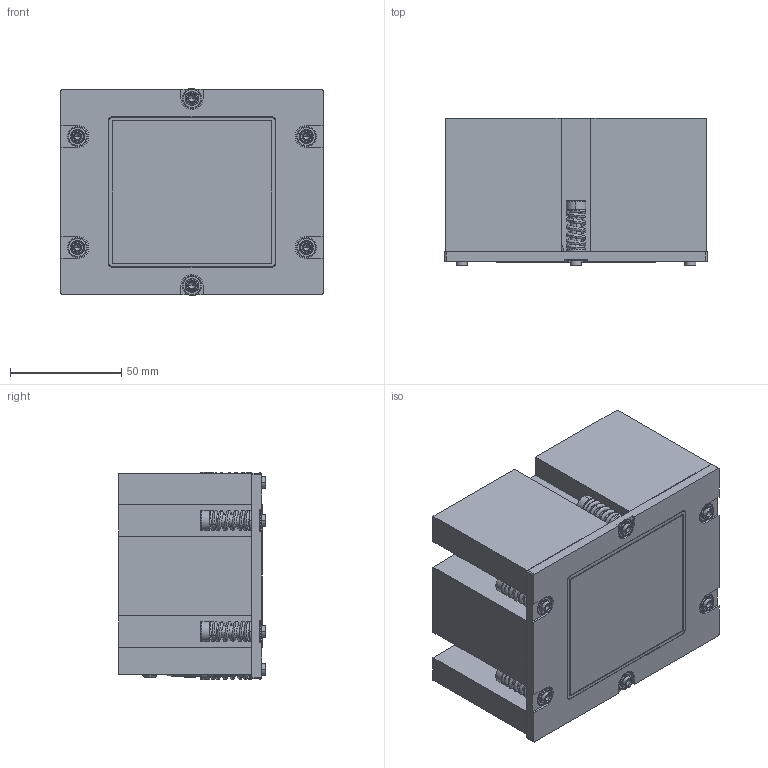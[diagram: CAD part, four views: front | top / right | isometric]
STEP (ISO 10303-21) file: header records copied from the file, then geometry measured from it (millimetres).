
FILE_DESCRIPTION((''),'2;1');
FILE_NAME('RGE220-P','2022-01-07T',('Vic'),(''),'CREO PARAMETRIC BY PTC INC, 2015200','CREO PARAMETRIC BY PTC INC, 2015200','');
FILE_SCHEMA(('CONFIG_CONTROL_DESIGN'));
Products named in the file (1): RGE220-P
Bounding box: 118 x 66.17 x 93.2 mm (x, y, z)
Volume: 622090.5 mm3; surface area: 77419.9 mm2
Topology: 1 solids, 7 shells, 1388 faces, 3750 edges, 2357 vertices
Faces by surface type: bspline 450, cylinder 371, plane 269, cone 180, torus 114, sphere 4
Entity records: 72867 total; most frequent: CARTESIAN_POINT 41372, ORIENTED_EDGE 7348, DIRECTION 5386, EDGE_CURVE 3698, VERTEX_POINT 2345, AXIS2_PLACEMENT_3D 2071, EDGE_LOOP 1461, FACE_OUTER_BOUND 1388
